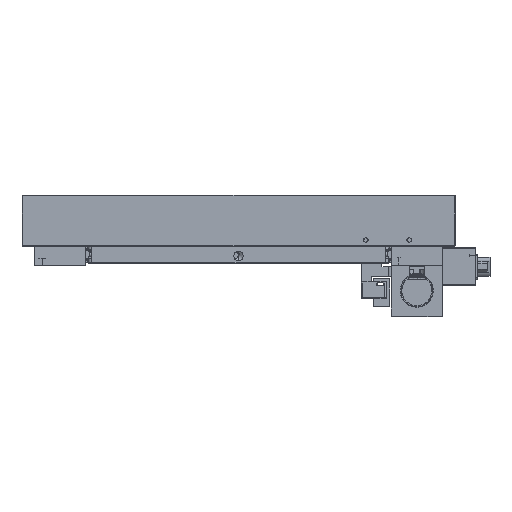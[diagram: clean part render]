
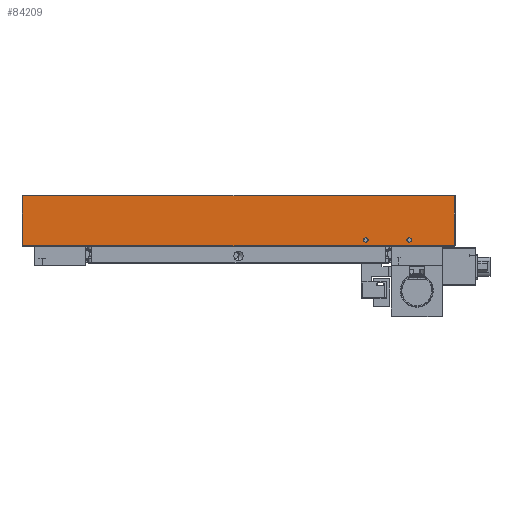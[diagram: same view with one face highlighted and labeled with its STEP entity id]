
A CAD part, top view. The second image highlights one B-rep face of the part: STEP entity #84209.
In plain terms, the highlighted planar face has unit normal (0, 0, 1).
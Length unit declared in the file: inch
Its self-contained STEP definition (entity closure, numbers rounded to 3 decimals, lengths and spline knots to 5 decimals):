
#545 = VECTOR ( 'NONE', #54280, 39.37008 ) ;
#553 = EDGE_CURVE ( 'NONE', #70682, #13598, #46077, .T. ) ;
#996 = ORIENTED_EDGE ( 'NONE', *, *, #553, .F. ) ;
#1228 = DIRECTION ( 'NONE',  ( 0., 1., 0. ) ) ;
#2299 = EDGE_CURVE ( 'NONE', #25716, #36574, #27141, .T. ) ;
#2793 = CARTESIAN_POINT ( 'NONE',  ( 4.25, -0.6305, 4.887 ) ) ;
#5396 = EDGE_CURVE ( 'NONE', #23608, #50168, #57413, .T. ) ;
#7381 = ORIENTED_EDGE ( 'NONE', *, *, #13508, .T. ) ;
#10092 = CARTESIAN_POINT ( 'NONE',  ( -4.24, 0.3595, 4.887 ) ) ;
#13508 = EDGE_CURVE ( 'NONE', #36574, #78171, #70752, .T. ) ;
#13598 = VERTEX_POINT ( 'NONE', #17504 ) ;
#14331 = DIRECTION ( 'NONE',  ( 0., 0., 1. ) ) ;
#17504 = CARTESIAN_POINT ( 'NONE',  ( 2.5, -0.565, 4.887 ) ) ;
#17842 = DIRECTION ( 'NONE',  ( 0., -1., 0. ) ) ;
#18093 = DIRECTION ( 'NONE',  ( 0., 1., 0. ) ) ;
#18237 = CARTESIAN_POINT ( 'NONE',  ( 4.24, 0.3495, 4.887 ) ) ;
#23608 = VERTEX_POINT ( 'NONE', #94029 ) ;
#23815 = DIRECTION ( 'NONE',  ( 0., 1., 0. ) ) ;
#24552 = CARTESIAN_POINT ( 'NONE',  ( 4.25, 0.3595, 4.887 ) ) ;
#25716 = VERTEX_POINT ( 'NONE', #50950 ) ;
#26946 = DIRECTION ( 'NONE',  ( 0., 0., 1. ) ) ;
#27141 = LINE ( 'NONE', #2793, #56192 ) ;
#27645 = CIRCLE ( 'NONE', #44069, 0.0445 ) ;
#30804 = ORIENTED_EDGE ( 'NONE', *, *, #53112, .T. ) ;
#33592 = CARTESIAN_POINT ( 'NONE',  ( 3.35, -0.565, 4.887 ) ) ;
#34008 = AXIS2_PLACEMENT_3D ( 'NONE', #102474, #94667, #23815 ) ;
#36574 = VERTEX_POINT ( 'NONE', #54873 ) ;
#38715 = DIRECTION ( 'NONE',  ( 0., 1., 0. ) ) ;
#43162 = DIRECTION ( 'NONE',  ( -1., 0., 0. ) ) ;
#44069 = AXIS2_PLACEMENT_3D ( 'NONE', #85144, #14331, #38715 ) ;
#44678 = CARTESIAN_POINT ( 'NONE',  ( 4.25, 0.3495, 4.887 ) ) ;
#45475 = CIRCLE ( 'NONE', #34008, 0.0445 ) ;
#46077 = CIRCLE ( 'NONE', #59270, 0.0445 ) ;
#47898 = EDGE_LOOP ( 'NONE', ( #30804, #89633, #100726, #7381 ) ) ;
#48544 = CARTESIAN_POINT ( 'NONE',  ( 4.24, 0.3595, 4.887 ) ) ;
#50168 = VERTEX_POINT ( 'NONE', #33592 ) ;
#50563 = EDGE_LOOP ( 'NONE', ( #996, #63288 ) ) ;
#50950 = CARTESIAN_POINT ( 'NONE',  ( -4.24, -0.6305, 4.887 ) ) ;
#51193 = CARTESIAN_POINT ( 'NONE',  ( 2.5, -0.5205, 4.887 ) ) ;
#51373 = CARTESIAN_POINT ( 'NONE',  ( -4.24, 0.3495, 4.887 ) ) ;
#52275 = VERTEX_POINT ( 'NONE', #51373 ) ;
#53112 = EDGE_CURVE ( 'NONE', #78171, #52275, #98489, .T. ) ;
#54280 = DIRECTION ( 'NONE',  ( 0., 1., 0. ) ) ;
#54873 = CARTESIAN_POINT ( 'NONE',  ( 4.24, -0.6305, 4.887 ) ) ;
#55121 = AXIS2_PLACEMENT_3D ( 'NONE', #24552, #101654, #1228 ) ;
#56192 = VECTOR ( 'NONE', #97484, 39.37008 ) ;
#56579 = FACE_BOUND ( 'NONE', #50563, .T. ) ;
#57413 = CIRCLE ( 'NONE', #90510, 0.0445 ) ;
#59270 = AXIS2_PLACEMENT_3D ( 'NONE', #51193, #26946, #18093 ) ;
#62904 = DIRECTION ( 'NONE',  ( 0., 0., 1. ) ) ;
#63288 = ORIENTED_EDGE ( 'NONE', *, *, #66412, .F. ) ;
#65187 = VECTOR ( 'NONE', #43162, 39.37008 ) ;
#66412 = EDGE_CURVE ( 'NONE', #13598, #70682, #45475, .T. ) ;
#69541 = EDGE_CURVE ( 'NONE', #52275, #25716, #95463, .T. ) ;
#70522 = FACE_OUTER_BOUND ( 'NONE', #47898, .T. ) ;
#70610 = CARTESIAN_POINT ( 'NONE',  ( 3.35, -0.5205, 4.887 ) ) ;
#70682 = VERTEX_POINT ( 'NONE', #89104 ) ;
#70752 = LINE ( 'NONE', #48544, #545 ) ;
#78171 = VERTEX_POINT ( 'NONE', #18237 ) ;
#78247 = FACE_BOUND ( 'NONE', #91411, .T. ) ;
#84209 = ADVANCED_FACE ( 'NONE', ( #56579, #78247, #70522 ), #95398, .T. ) ;
#85144 = CARTESIAN_POINT ( 'NONE',  ( 3.35, -0.5205, 4.887 ) ) ;
#86819 = ORIENTED_EDGE ( 'NONE', *, *, #5396, .F. ) ;
#87982 = EDGE_CURVE ( 'NONE', #50168, #23608, #27645, .T. ) ;
#89104 = CARTESIAN_POINT ( 'NONE',  ( 2.5, -0.476, 4.887 ) ) ;
#89633 = ORIENTED_EDGE ( 'NONE', *, *, #69541, .T. ) ;
#90510 = AXIS2_PLACEMENT_3D ( 'NONE', #70610, #62904, #94459 ) ;
#91411 = EDGE_LOOP ( 'NONE', ( #86819, #94497 ) ) ;
#94029 = CARTESIAN_POINT ( 'NONE',  ( 3.35, -0.476, 4.887 ) ) ;
#94459 = DIRECTION ( 'NONE',  ( 0., 1., 0. ) ) ;
#94497 = ORIENTED_EDGE ( 'NONE', *, *, #87982, .F. ) ;
#94667 = DIRECTION ( 'NONE',  ( 0., 0., 1. ) ) ;
#95398 = PLANE ( 'NONE',  #55121 ) ;
#95463 = LINE ( 'NONE', #10092, #95687 ) ;
#95687 = VECTOR ( 'NONE', #17842, 39.37008 ) ;
#97484 = DIRECTION ( 'NONE',  ( 1., 0., 0. ) ) ;
#98489 = LINE ( 'NONE', #44678, #65187 ) ;
#100726 = ORIENTED_EDGE ( 'NONE', *, *, #2299, .T. ) ;
#101654 = DIRECTION ( 'NONE',  ( 0., 0., 1. ) ) ;
#102474 = CARTESIAN_POINT ( 'NONE',  ( 2.5, -0.5205, 4.887 ) ) ;
